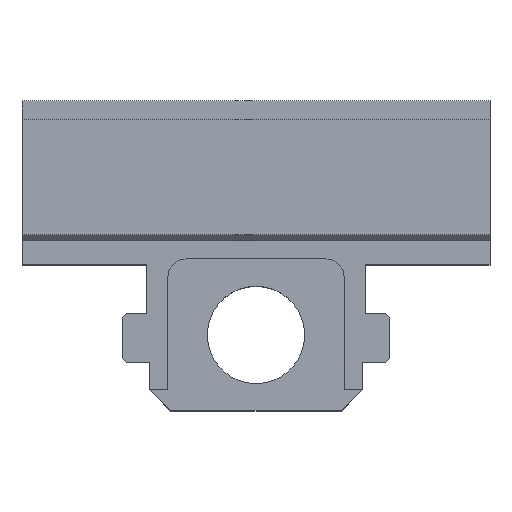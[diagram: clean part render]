
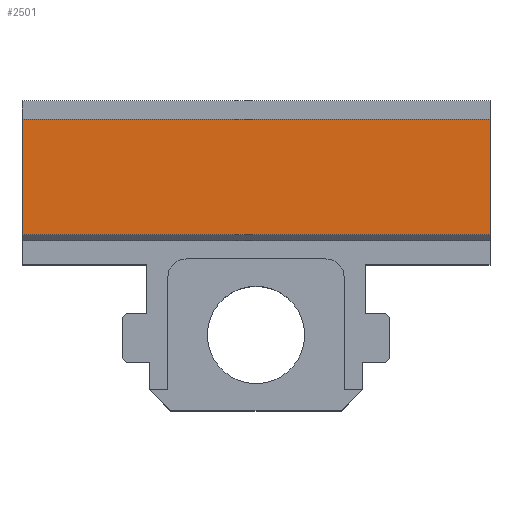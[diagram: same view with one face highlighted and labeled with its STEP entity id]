
A CAD part, top view. The second image highlights one B-rep face of the part: STEP entity #2501.
In plain terms, the highlighted planar face has unit normal (0, 0, 1).
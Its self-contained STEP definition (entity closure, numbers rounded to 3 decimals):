
#4 = DIRECTION ( 'NONE',  ( 0., -1., 0. ) ) ;
#183 = EDGE_CURVE ( 'NONE', #2378, #2445, #1679, .T. ) ;
#210 = LINE ( 'NONE', #1084, #1755 ) ;
#392 = DIRECTION ( 'NONE',  ( -1., 0., 0. ) ) ;
#510 = VECTOR ( 'NONE', #4, 1000. ) ;
#531 = ORIENTED_EDGE ( 'NONE', *, *, #578, .F. ) ;
#578 = EDGE_CURVE ( 'NONE', #1312, #1368, #1054, .T. ) ;
#587 = CARTESIAN_POINT ( 'NONE',  ( 38.5, 62., 16.25 ) ) ;
#612 = ORIENTED_EDGE ( 'NONE', *, *, #705, .F. ) ;
#636 = CARTESIAN_POINT ( 'NONE',  ( 38.5, 43., 16.25 ) ) ;
#646 = VECTOR ( 'NONE', #1069, 1000. ) ;
#660 = CARTESIAN_POINT ( 'NONE',  ( -38.5, 43., 16.25 ) ) ;
#705 = EDGE_CURVE ( 'NONE', #2378, #1312, #210, .T. ) ;
#851 = PLANE ( 'NONE',  #1460 ) ;
#965 = LINE ( 'NONE', #660, #510 ) ;
#1054 = LINE ( 'NONE', #1669, #646 ) ;
#1068 = FACE_OUTER_BOUND ( 'NONE', #2207, .T. ) ;
#1069 = DIRECTION ( 'NONE',  ( -1., 0., 0. ) ) ;
#1084 = CARTESIAN_POINT ( 'NONE',  ( 38.5, 43., 16.25 ) ) ;
#1283 = EDGE_CURVE ( 'NONE', #2445, #1368, #965, .T. ) ;
#1312 = VERTEX_POINT ( 'NONE', #1935 ) ;
#1365 = ORIENTED_EDGE ( 'NONE', *, *, #183, .T. ) ;
#1368 = VERTEX_POINT ( 'NONE', #2590 ) ;
#1460 = AXIS2_PLACEMENT_3D ( 'NONE', #636, #1700, #392 ) ;
#1669 = CARTESIAN_POINT ( 'NONE',  ( 38.5, 43., 16.25 ) ) ;
#1679 = LINE ( 'NONE', #2112, #2641 ) ;
#1700 = DIRECTION ( 'NONE',  ( 0., 0., -1. ) ) ;
#1704 = ORIENTED_EDGE ( 'NONE', *, *, #1283, .T. ) ;
#1755 = VECTOR ( 'NONE', #2766, 1000. ) ;
#1935 = CARTESIAN_POINT ( 'NONE',  ( 38.5, 43., 16.25 ) ) ;
#2112 = CARTESIAN_POINT ( 'NONE',  ( 38.5, 62., 16.25 ) ) ;
#2207 = EDGE_LOOP ( 'NONE', ( #1704, #531, #612, #1365 ) ) ;
#2295 = CARTESIAN_POINT ( 'NONE',  ( -38.5, 62., 16.25 ) ) ;
#2378 = VERTEX_POINT ( 'NONE', #587 ) ;
#2402 = DIRECTION ( 'NONE',  ( -1., 0., 0. ) ) ;
#2445 = VERTEX_POINT ( 'NONE', #2295 ) ;
#2501 = ADVANCED_FACE ( 'NONE', ( #1068 ), #851, .F. ) ;
#2590 = CARTESIAN_POINT ( 'NONE',  ( -38.5, 43., 16.25 ) ) ;
#2641 = VECTOR ( 'NONE', #2402, 1000. ) ;
#2766 = DIRECTION ( 'NONE',  ( 0., -1., 0. ) ) ;
